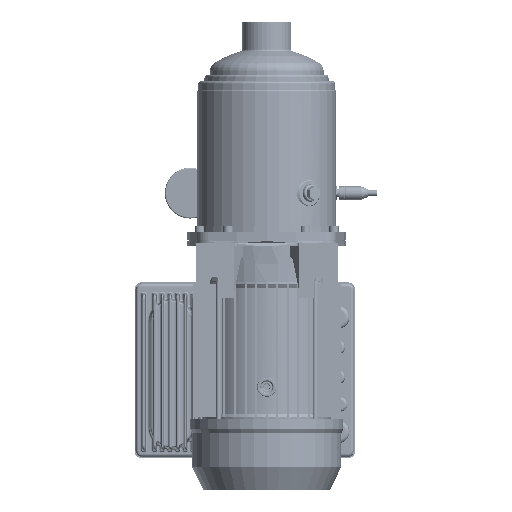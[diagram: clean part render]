
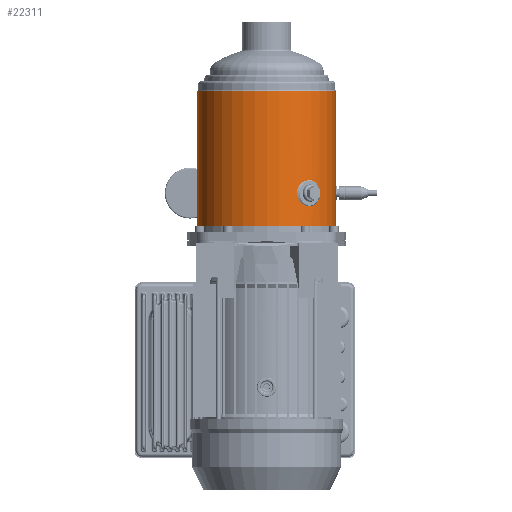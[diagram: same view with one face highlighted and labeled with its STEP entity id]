
A CAD part, front view. The second image highlights one B-rep face of the part: STEP entity #22311.
In plain terms, the highlighted cylindrical face has radius 72 mm (diameter 144 mm), a partial arc.
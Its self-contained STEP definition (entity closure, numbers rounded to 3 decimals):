
#19452=CARTESIAN_POINT('',(0.,8.4,0.));
#19453=DIRECTION('',(0.,1.,0.));
#19454=DIRECTION('',(0.,0.,-1.));
#19455=AXIS2_PLACEMENT_3D('',#19452,#19453,#19454);
#19528=DIRECTION('',(0.,1.,0.));
#19529=VECTOR('',#19528,140.614);
#19530=CARTESIAN_POINT('',(0.,8.4,-72.));
#19531=LINE('',#19530,#19529);
#19535=DIRECTION('',(0.,-1.,0.));
#19536=VECTOR('',#19535,140.614);
#19537=CARTESIAN_POINT('',(0.,149.014,72.));
#19538=LINE('',#19537,#19536);
#19542=CARTESIAN_POINT('',(-64.772,43.,
31.441));
#19543=CARTESIAN_POINT('',(-64.772,41.551,
31.441));
#19544=CARTESIAN_POINT('',(-64.552,38.753,
31.901));
#19545=CARTESIAN_POINT('',(-63.436,34.588,
34.11));
#19546=CARTESIAN_POINT('',(-61.387,31.256,
37.728));
#19547=CARTESIAN_POINT('',(-58.476,29.423,
42.129));
#19548=CARTESIAN_POINT('',(-55.02,29.424,
46.553));
#19549=CARTESIAN_POINT('',(-51.453,31.259,
50.441));
#19550=CARTESIAN_POINT('',(-48.44,34.593,
53.303));
#19551=CARTESIAN_POINT('',(-46.568,38.761,
54.919));
#19552=CARTESIAN_POINT('',(-46.177,41.554,
55.242));
#19553=CARTESIAN_POINT('',(-46.177,43.,
55.242));
#19558=CARTESIAN_POINT('',(-46.177,43.,
55.242));
#19559=CARTESIAN_POINT('',(-46.177,44.449,
55.242));
#19560=CARTESIAN_POINT('',(-46.57,47.247,
54.918));
#19561=CARTESIAN_POINT('',(-48.443,51.412,
53.3));
#19562=CARTESIAN_POINT('',(-51.458,54.744,
50.436));
#19563=CARTESIAN_POINT('',(-55.024,56.577,
46.547));
#19564=CARTESIAN_POINT('',(-58.48,56.576,
42.123));
#19565=CARTESIAN_POINT('',(-61.39,54.741,
37.722));
#19566=CARTESIAN_POINT('',(-63.438,51.407,
34.106));
#19567=CARTESIAN_POINT('',(-64.554,47.239,
31.898));
#19568=CARTESIAN_POINT('',(-64.772,44.446,
31.441));
#19569=CARTESIAN_POINT('',(-64.772,43.,
31.441));
#19582=CARTESIAN_POINT('',(0.,149.014,0.));
#19583=DIRECTION('',(0.,-1.,0.));
#19584=DIRECTION('',(0.,0.,1.));
#19585=AXIS2_PLACEMENT_3D('',#19582,#19583,#19584);
#21566=CARTESIAN_POINT('',(0.,8.4,72.));
#21567=CARTESIAN_POINT('',(0.,8.4,-72.));
#21568=VERTEX_POINT('',#21566);
#21569=VERTEX_POINT('',#21567);
#21570=CARTESIAN_POINT('',(0.,149.014,-72.));
#21571=VERTEX_POINT('',#21570);
#21572=CARTESIAN_POINT('',(0.,149.014,72.));
#21573=VERTEX_POINT('',#21572);
#21578=VERTEX_POINT('',#19542);
#21579=VERTEX_POINT('',#19553);
#22293=CARTESIAN_POINT('',(0.,151.827,0.));
#22294=DIRECTION('',(0.,-1.,0.));
#22295=DIRECTION('',(0.,0.,1.));
#22296=AXIS2_PLACEMENT_3D('',#22293,#22294,#22295);
#22297=CYLINDRICAL_SURFACE('',#22296,72.);
#22298=ORIENTED_EDGE('',*,*,#22271,.T.);
#22300=ORIENTED_EDGE('',*,*,#22299,.F.);
#22301=ORIENTED_EDGE('',*,*,#22274,.T.);
#22302=ORIENTED_EDGE('',*,*,#22261,.F.);
#22303=EDGE_LOOP('',(#22298,#22300,#22301,#22302));
#22304=FACE_OUTER_BOUND('',#22303,.F.);
#22306=ORIENTED_EDGE('',*,*,#22305,.T.);
#22308=ORIENTED_EDGE('',*,*,#22307,.T.);
#22309=EDGE_LOOP('',(#22306,#22308));
#22310=FACE_BOUND('',#22309,.F.);
#19456=CIRCLE('',#19455,72.);
#19554=B_SPLINE_CURVE_WITH_KNOTS('',3,(#19542,#19543,#19544,#19545,#19546,
#19547,#19548,#19549,#19550,#19551,#19552,#19553),.UNSPECIFIED.,.F.,.F.,(4,1,1,
1,1,1,1,1,1,4),(0.,0.111,0.222,0.333,
0.444,0.556,0.667,0.778,
0.889,1.),.UNSPECIFIED.);
#19570=B_SPLINE_CURVE_WITH_KNOTS('',3,(#19558,#19559,#19560,#19561,#19562,
#19563,#19564,#19565,#19566,#19567,#19568,#19569),.UNSPECIFIED.,.F.,.F.,(4,1,1,
1,1,1,1,1,1,4),(0.,0.111,0.222,0.333,
0.444,0.556,0.667,0.778,
0.889,1.),.UNSPECIFIED.);
#19586=CIRCLE('',#19585,72.);
#22261=EDGE_CURVE('',#21569,#21568,#19456,.T.);
#22271=EDGE_CURVE('',#21569,#21571,#19531,.T.);
#22274=EDGE_CURVE('',#21573,#21568,#19538,.T.);
#22299=EDGE_CURVE('',#21573,#21571,#19586,.T.);
#22305=EDGE_CURVE('',#21578,#21579,#19554,.T.);
#22307=EDGE_CURVE('',#21579,#21578,#19570,.T.);
#22311=ADVANCED_FACE('',(#22304,#22310),#22297,.T.);
